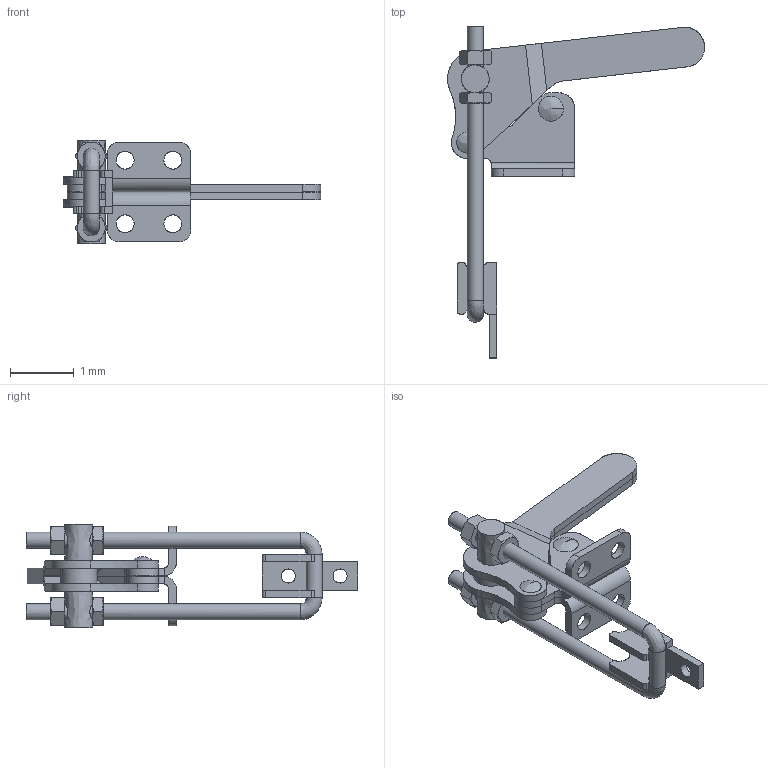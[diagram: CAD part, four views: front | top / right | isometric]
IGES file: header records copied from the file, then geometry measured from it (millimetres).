
Start section:  Autodesk DirectConnect version 7.0.27.0 ---- IGES version 5.3
Global section: file name: C:\Users\Nick\Desktop\PCU-1010\3D\PCU-1010.igs; native system: Autodesk DirectConnect 7.0.27.0; preprocessor: 7.0.27.0; author: Nick; organization: Unknown; date: 20150618.123719; units: millimetre
Bounding box: 4.04 x 5.21 x 1.62 mm (x, y, z)
Surface area: 48.3 mm2 (no closed solid volume)
Topology: 0 solids, 0 shells, 261 faces, 1684 edges, 1678 vertices
Faces by surface type: bspline 261
